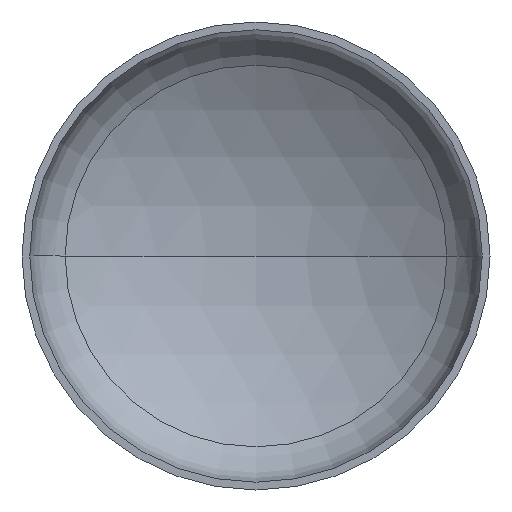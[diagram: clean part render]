
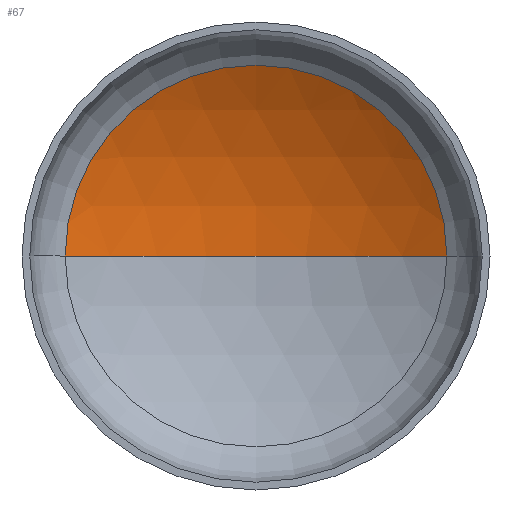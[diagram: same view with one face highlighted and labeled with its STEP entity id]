
A CAD part, front view. The second image highlights one B-rep face of the part: STEP entity #67.
In plain terms, the highlighted spherical face has radius 4800 mm.
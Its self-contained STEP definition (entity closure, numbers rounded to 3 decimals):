
#16 = DIRECTION ( 'NONE',  ( 0., -1., 0. ) ) ;
#37 = FACE_OUTER_BOUND ( 'NONE', #114, .T. ) ;
#44 = ORIENTED_EDGE ( 'NONE', *, *, #111, .T. ) ;
#54 = AXIS2_PLACEMENT_3D ( 'NONE', #81, #307, #122 ) ;
#55 = AXIS2_PLACEMENT_3D ( 'NONE', #308, #123, #333 ) ;
#57 = ORIENTED_EDGE ( 'NONE', *, *, #116, .T. ) ;
#60 = AXIS2_PLACEMENT_3D ( 'NONE', #165, #16, #380 ) ;
#67 = ADVANCED_FACE ( 'NONE', ( #37 ), #139, .F. ) ;
#80 = AXIS2_PLACEMENT_3D ( 'NONE', #142, #107, #268 ) ;
#81 = CARTESIAN_POINT ( 'NONE',  ( 0., -3233.917, 0. ) ) ;
#107 = DIRECTION ( 'NONE',  ( 0., 0., -1. ) ) ;
#109 = CIRCLE ( 'NONE', #55, 4800. ) ;
#111 = EDGE_CURVE ( 'NONE', #339, #233, #275, .T. ) ;
#114 = EDGE_LOOP ( 'NONE', ( #217, #57, #44 ) ) ;
#116 = EDGE_CURVE ( 'NONE', #197, #339, #109, .T. ) ;
#118 = EDGE_CURVE ( 'NONE', #197, #233, #185, .T. ) ;
#122 = DIRECTION ( 'NONE',  ( 1., 0., 0. ) ) ;
#123 = DIRECTION ( 'NONE',  ( 0., 0., -1. ) ) ;
#139 = SPHERICAL_SURFACE ( 'NONE', #80, 4800. ) ;
#142 = CARTESIAN_POINT ( 'NONE',  ( 0., -3233.917, 0. ) ) ;
#153 = CARTESIAN_POINT ( 'NONE',  ( -2446.452, 895.838, 0. ) ) ;
#165 = CARTESIAN_POINT ( 'NONE',  ( 0., 895.838, 0. ) ) ;
#185 = CIRCLE ( 'NONE', #54, 4800. ) ;
#197 = VERTEX_POINT ( 'NONE', #327 ) ;
#217 = ORIENTED_EDGE ( 'NONE', *, *, #118, .F. ) ;
#233 = VERTEX_POINT ( 'NONE', #153 ) ;
#268 = DIRECTION ( 'NONE',  ( -1., 0., 0. ) ) ;
#269 = CARTESIAN_POINT ( 'NONE',  ( 2446.452, 895.838, 0. ) ) ;
#275 = CIRCLE ( 'NONE', #60, 2446.452 ) ;
#307 = DIRECTION ( 'NONE',  ( 0., 0., 1. ) ) ;
#308 = CARTESIAN_POINT ( 'NONE',  ( 0., -3233.917, 0. ) ) ;
#327 = CARTESIAN_POINT ( 'NONE',  ( 0., 1566.083, 0. ) ) ;
#333 = DIRECTION ( 'NONE',  ( -1., 0., 0. ) ) ;
#339 = VERTEX_POINT ( 'NONE', #269 ) ;
#380 = DIRECTION ( 'NONE',  ( 1., 0., 0. ) ) ;
